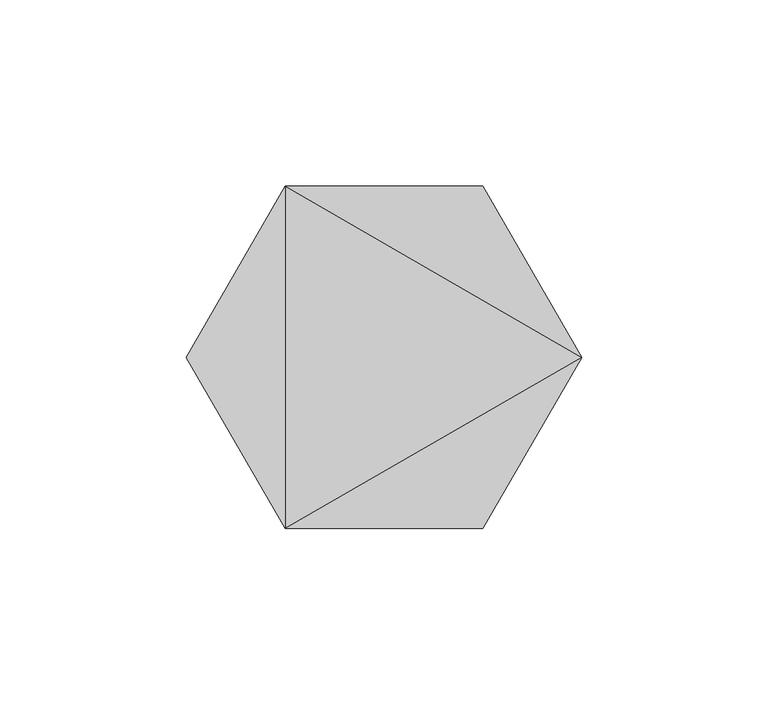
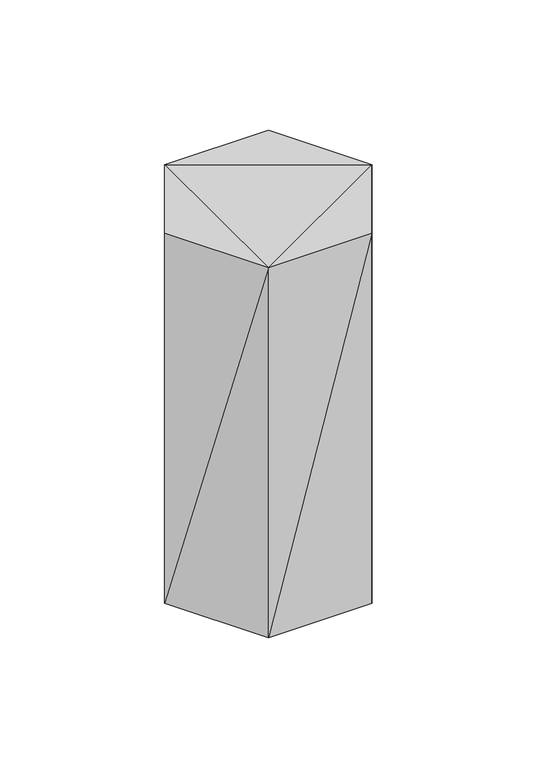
"""IFC4 building model written with IfcOpenShell, lengths in millimetres: geographic element geometry, Enscape AssetDefinition - Canister : Enscape AssetDefinition - Canister."""

from ifc_helpers import new_model, si_unit, origin, place, context, project, spatial, faceted_brep, source, transform, mapped, element, save


def geographic_element_f00d6f87(model_context):
    return source(origin(), model_context, "Body", "Brep", [
        faceted_brep([(53.0513041, 0.0108852, 0.0), (26.5281256, -45.9284522, 0.0), (-26.5182294, -45.9284522, 0.0), (53.0513041, 0.0108852, 199.9999881), (26.5281256, 45.950219, 199.9999881), (26.5281256, 45.950219, 0.0), (-26.5182294, 45.950219, 199.9999881), (-26.5182294, 45.950219, 0.0), (-53.041406, 0.0108852, 199.9999881), (-53.041406, 0.0108852, 0.0), (-26.5182294, -45.9284522, 199.9999881), (26.5281256, -45.9284522, 199.9999881)], [[[0, 1, 2]], [[3, 0, 4]], [[4, 5, 6]], [[6, 7, 8]], [[8, 9, 10]], [[10, 2, 11]], [[11, 1, 3]], [[10, 11, 3]], [[7, 2, 9]], [[0, 7, 5]], [[0, 2, 7]], [[4, 0, 5]], [[6, 5, 7]], [[8, 7, 9]], [[10, 9, 2]], [[11, 2, 1]], [[3, 1, 0]], [[6, 3, 4]], [[10, 6, 8]], [[10, 3, 6]]]),
    ])


if __name__ == "__main__":
    model = new_model("IFC4")
    model_context = context("Model", 3, world=origin())
    ifc_project = project(units=[si_unit("LENGTHUNIT", "METRE", prefix="MILLI")], contexts=[model_context])
    site = spatial("IfcSite", under=ifc_project)
    building = spatial("IfcBuilding", under=site)
    placement = place(None, origin())
    geographic_element_shape = geographic_element_f00d6f87(model_context)
    element("IfcGeographicElement", 1, ObjectType="Enscape AssetDefinition - Canister : Enscape AssetDefinition - Canister", at=placement, inside=building, context=model_context, shape_type="MappedRepresentation", body=[
        mapped(geographic_element_shape, transform((0.0, 0.0, 0.0), x_axis=(1.0, 0.0, 0.0), y_axis=(0.0, 1.0, 0.0), z_axis=(0.0, 0.0, 1.0))),
    ])
    save(model, "model.ifc")
